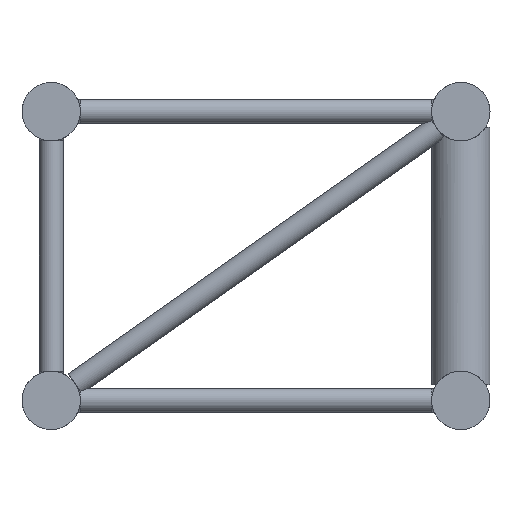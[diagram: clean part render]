
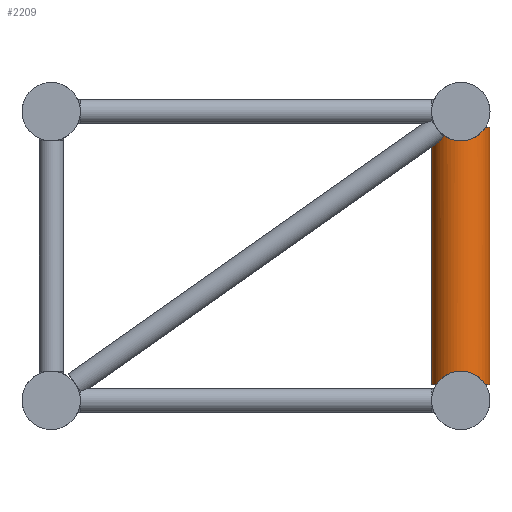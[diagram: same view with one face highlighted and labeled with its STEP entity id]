
A CAD part, left-side view. The second image highlights one B-rep face of the part: STEP entity #2209.
In plain terms, the highlighted cylindrical face has radius 24.15 mm (diameter 48.3 mm), a full revolution.
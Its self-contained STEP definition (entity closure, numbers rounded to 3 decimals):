
#40=CIRCLE('',#2352,24.15);
#69=CIRCLE('',#2429,24.15);
#70=CIRCLE('',#2431,24.15);
#71=CIRCLE('',#2433,24.15);
#323=FACE_BOUND('',#636,.T.);
#473=FACE_OUTER_BOUND('',#635,.T.);
#635=EDGE_LOOP('',(#1635,#1636,#1637,#1638,#1639,#1640));
#636=EDGE_LOOP('',(#1641,#1642,#1643,#1644));
#830=ELLIPSE('',#2329,41.912,24.15);
#846=ELLIPSE('',#2366,34.153,24.15);
#847=ELLIPSE('',#2367,34.153,24.15);
#858=ELLIPSE('',#2435,34.153,24.15);
#859=ELLIPSE('',#2436,34.153,24.15);
#887=B_SPLINE_CURVE_WITH_KNOTS('',3,(#3670,#3671,#3672,#3673,#3674,#3675,
#3676,#3677,#3678,#3679,#3680,#3681,#3682,#3683,#3684,#3685,#3686,#3687,
#3688,#3689,#3690,#3691),.UNSPECIFIED.,.F.,.F.,(4,2,2,2,2,2,2,2,2,2,4),
(1.619,2.098,2.448,2.797,2.963,
3.129,3.294,3.46,3.868,4.276,
4.635),.UNSPECIFIED.);
#964=VERTEX_POINT('',#3647);
#965=VERTEX_POINT('',#3648);
#973=VERTEX_POINT('',#3668);
#983=VERTEX_POINT('',#3728);
#1006=VERTEX_POINT('',#3952);
#1007=VERTEX_POINT('',#3954);
#1042=VERTEX_POINT('',#4099);
#1043=VERTEX_POINT('',#4100);
#1044=VERTEX_POINT('',#4104);
#1045=VERTEX_POINT('',#4105);
#1172=EDGE_CURVE('',#964,#965,#830,.T.);
#1181=EDGE_CURVE('',#965,#973,#887,.T.);
#1199=EDGE_CURVE('',#983,#973,#40,.T.);
#1222=EDGE_CURVE('',#964,#1006,#846,.T.);
#1224=EDGE_CURVE('',#1007,#983,#847,.T.);
#1277=EDGE_CURVE('',#1006,#1007,#69,.T.);
#1279=EDGE_CURVE('',#1042,#1043,#70,.T.);
#1281=EDGE_CURVE('',#1044,#1045,#71,.T.);
#1282=EDGE_CURVE('',#1045,#1042,#858,.T.);
#1283=EDGE_CURVE('',#1043,#1044,#859,.T.);
#1635=ORIENTED_EDGE('',*,*,#1181,.T.);
#1636=ORIENTED_EDGE('',*,*,#1199,.F.);
#1637=ORIENTED_EDGE('',*,*,#1224,.F.);
#1638=ORIENTED_EDGE('',*,*,#1277,.F.);
#1639=ORIENTED_EDGE('',*,*,#1222,.F.);
#1640=ORIENTED_EDGE('',*,*,#1172,.T.);
#1641=ORIENTED_EDGE('',*,*,#1282,.F.);
#1642=ORIENTED_EDGE('',*,*,#1281,.F.);
#1643=ORIENTED_EDGE('',*,*,#1283,.F.);
#1644=ORIENTED_EDGE('',*,*,#1279,.F.);
#1990=CYLINDRICAL_SURFACE('',#2434,24.15);
#2209=ADVANCED_FACE('',(#473,#323),#1990,.T.);
#2329=AXIS2_PLACEMENT_3D('',#3649,#2667,#2668);
#2352=AXIS2_PLACEMENT_3D('',#3730,#2721,#2722);
#2366=AXIS2_PLACEMENT_3D('',#3953,#2755,#2756);
#2367=AXIS2_PLACEMENT_3D('',#3956,#2758,#2759);
#2429=AXIS2_PLACEMENT_3D('',#4097,#2895,#2896);
#2431=AXIS2_PLACEMENT_3D('',#4102,#2900,#2901);
#2433=AXIS2_PLACEMENT_3D('',#4107,#2905,#2906);
#2434=AXIS2_PLACEMENT_3D('',#4108,#2907,#2908);
#2435=AXIS2_PLACEMENT_3D('',#4109,#2909,#2910);
#2436=AXIS2_PLACEMENT_3D('',#4110,#2911,#2912);
#2667=DIRECTION('center_axis',(0.,-0.817,
0.576));
#2668=DIRECTION('ref_axis',(0.,-0.576,-0.817));
#2721=DIRECTION('center_axis',(0.,0.,
1.));
#2722=DIRECTION('ref_axis',(-1.,0.,0.));
#2755=DIRECTION('center_axis',(-0.707,0.,0.707));
#2756=DIRECTION('ref_axis',(-0.707,0.,-0.707));
#2758=DIRECTION('center_axis',(0.707,0.,0.707));
#2759=DIRECTION('ref_axis',(-0.707,0.,0.707));
#2895=DIRECTION('center_axis',(0.,0.,
1.));
#2896=DIRECTION('ref_axis',(-1.,0.,0.));
#2900=DIRECTION('center_axis',(0.,0.,
-1.));
#2901=DIRECTION('ref_axis',(-1.,0.,0.));
#2905=DIRECTION('center_axis',(0.,0.,
-1.));
#2906=DIRECTION('ref_axis',(-1.,0.,0.));
#2907=DIRECTION('center_axis',(0.,0.,1.));
#2908=DIRECTION('ref_axis',(-1.,0.,0.));
#2909=DIRECTION('center_axis',(0.707,0.,-0.707));
#2910=DIRECTION('ref_axis',(-0.707,0.,-0.707));
#2911=DIRECTION('center_axis',(-0.707,0.,-0.707));
#2912=DIRECTION('ref_axis',(-0.707,0.,0.707));
#3647=CARTESIAN_POINT('',(57.303,17.304,-16.847));
#3648=CARTESIAN_POINT('',(54.872,14.545,-20.759));
#3649=CARTESIAN_POINT('Origin',(74.15,0.,-41.39));
#3668=CARTESIAN_POINT('',(69.566,23.711,-13.15));
#3670=CARTESIAN_POINT('Ctrl Pts',(54.872,14.545,-20.759));
#3671=CARTESIAN_POINT('Ctrl Pts',(55.539,15.43,-21.871));
#3672=CARTESIAN_POINT('Ctrl Pts',(56.282,16.29,-22.894));
#3673=CARTESIAN_POINT('Ctrl Pts',(57.74,17.739,-24.451));
#3674=CARTESIAN_POINT('Ctrl Pts',(58.405,18.336,-25.041));
#3675=CARTESIAN_POINT('Ctrl Pts',(59.897,19.519,-26.03));
#3676=CARTESIAN_POINT('Ctrl Pts',(60.719,20.104,-26.438));
#3677=CARTESIAN_POINT('Ctrl Pts',(62.167,20.975,-26.746));
#3678=CARTESIAN_POINT('Ctrl Pts',(62.666,21.252,-26.794));
#3679=CARTESIAN_POINT('Ctrl Pts',(63.682,21.771,-26.743));
#3680=CARTESIAN_POINT('Ctrl Pts',(64.199,22.011,-26.644));
#3681=CARTESIAN_POINT('Ctrl Pts',(65.2,22.437,-26.293));
#3682=CARTESIAN_POINT('Ctrl Pts',(65.685,22.623,-26.039));
#3683=CARTESIAN_POINT('Ctrl Pts',(66.582,22.938,-25.41));
#3684=CARTESIAN_POINT('Ctrl Pts',(66.993,23.068,-25.034));
#3685=CARTESIAN_POINT('Ctrl Pts',(68.242,23.435,-23.633));
#3686=CARTESIAN_POINT('Ctrl Pts',(68.924,23.582,-22.355));
#3687=CARTESIAN_POINT('Ctrl Pts',(69.805,23.76,-19.606));
#3688=CARTESIAN_POINT('Ctrl Pts',(70.,23.791,-18.133));
#3689=CARTESIAN_POINT('Ctrl Pts',(70.,23.791,-15.575));
#3690=CARTESIAN_POINT('Ctrl Pts',(69.855,23.767,-14.351));
#3691=CARTESIAN_POINT('Ctrl Pts',(69.566,23.711,-13.15));
#3728=CARTESIAN_POINT('',(87.3,20.256,-13.15));
#3730=CARTESIAN_POINT('Origin',(74.15,0.,-13.15));
#3952=CARTESIAN_POINT('',(61.,-20.256,-13.15));
#3953=CARTESIAN_POINT('Origin',(74.15,0.,0.));
#3954=CARTESIAN_POINT('',(87.3,-20.256,-13.15));
#3956=CARTESIAN_POINT('Origin',(74.15,0.,0.));
#4097=CARTESIAN_POINT('Origin',(74.15,0.,-13.15));
#4099=CARTESIAN_POINT('',(87.3,-20.256,-225.85));
#4100=CARTESIAN_POINT('',(61.,-20.256,-225.85));
#4102=CARTESIAN_POINT('Origin',(74.15,0.,-225.85));
#4104=CARTESIAN_POINT('',(61.,20.256,-225.85));
#4105=CARTESIAN_POINT('',(87.3,20.256,-225.85));
#4107=CARTESIAN_POINT('Origin',(74.15,0.,-225.85));
#4108=CARTESIAN_POINT('Origin',(74.15,0.,-225.85));
#4109=CARTESIAN_POINT('Origin',(74.15,0.,-239.));
#4110=CARTESIAN_POINT('Origin',(74.15,0.,-239.));
